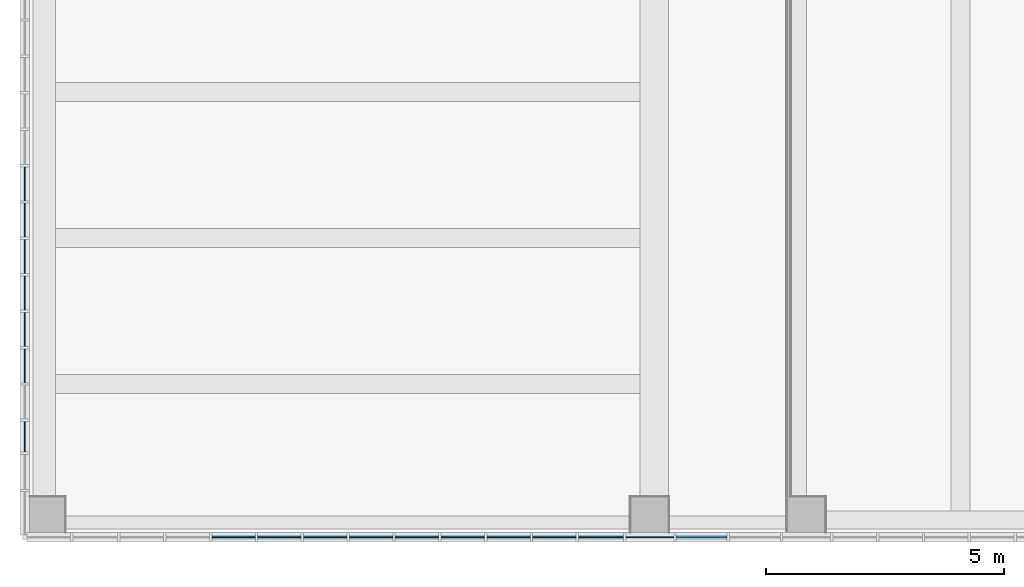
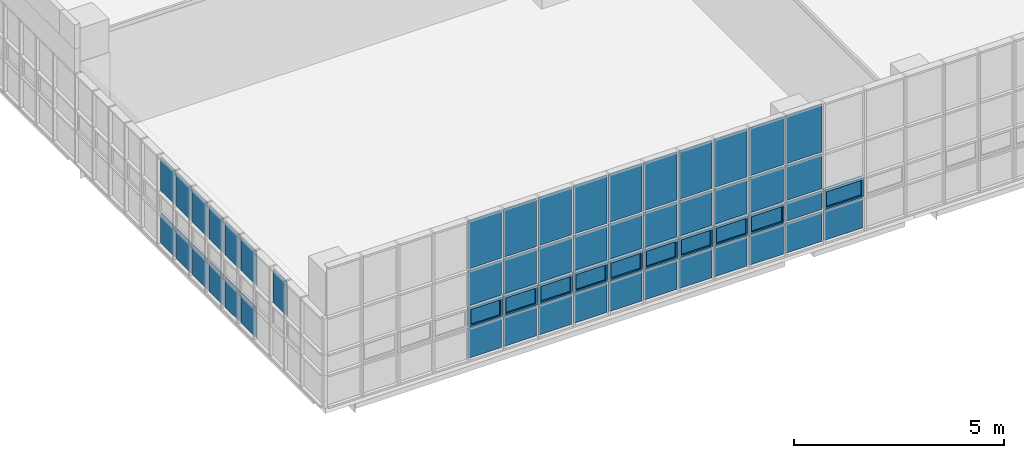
# One storey, part 29 of 76: 55 plates, 2 elements without a shape of their own.
"""IFC2X3 building model written with IfcOpenShell, lengths in millimetres."""

from ifc_helpers import new_model, entity, si_unit, converted_unit, derived_unit, direction, frame, origin, origin_2d_with_axis, place, context, subcontext, project, spatial, polyline, rectangle, outline, extrude, source, transform, mapped, material, material_list, type_object, type_shapes, element, aggregate, save


model = new_model("IFC2X3")

# Units and contexts
model_context = context("Model", 3, precision=0.01, world=origin(), true_north=direction((6.123031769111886e-17, 1.0)))
body_context = subcontext(model_context, "Body", "Model", "MODEL_VIEW")
ifc_project = project(units=[si_unit("LENGTHUNIT", "METRE", prefix="MILLI"), si_unit("AREAUNIT", "SQUARE_METRE"), si_unit("VOLUMEUNIT", "CUBIC_METRE"), converted_unit("PLANEANGLEUNIT", "DEGREE", entity("IfcRatioMeasure", 0.017453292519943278), si_unit("PLANEANGLEUNIT", "RADIAN"), dimensions=[0, 0, 0, 0, 0, 0, 0]), si_unit("MASSUNIT", "GRAM", prefix="KILO"), derived_unit("MASSDENSITYUNIT", [(si_unit("MASSUNIT", "GRAM", prefix="KILO"), 1), (si_unit("LENGTHUNIT", "METRE"), -3)]), derived_unit("MOMENTOFINERTIAUNIT", [(si_unit("LENGTHUNIT", "METRE"), 4)]), si_unit("TIMEUNIT", "SECOND"), si_unit("FREQUENCYUNIT", "HERTZ"), si_unit("THERMODYNAMICTEMPERATUREUNIT", "DEGREE_CELSIUS"), derived_unit("THERMALTRANSMITTANCEUNIT", [(si_unit("MASSUNIT", "GRAM", prefix="KILO"), 1), (si_unit("THERMODYNAMICTEMPERATUREUNIT", "KELVIN"), -1), (si_unit("TIMEUNIT", "SECOND"), -3)]), derived_unit("VOLUMETRICFLOWRATEUNIT", [(si_unit("LENGTHUNIT", "METRE"), 3), (si_unit("TIMEUNIT", "SECOND"), -1)]), derived_unit("MASSFLOWRATEUNIT", [(si_unit("MASSUNIT", "GRAM", prefix="KILO"), 1), (si_unit("TIMEUNIT", "SECOND"), -1)]), derived_unit("ROTATIONALFREQUENCYUNIT", [(si_unit("TIMEUNIT", "SECOND"), -1)]), si_unit("ELECTRICCURRENTUNIT", "AMPERE"), si_unit("ELECTRICVOLTAGEUNIT", "VOLT"), si_unit("POWERUNIT", "WATT"), si_unit("FORCEUNIT", "NEWTON", prefix="KILO"), si_unit("ILLUMINANCEUNIT", "LUX"), si_unit("LUMINOUSFLUXUNIT", "LUMEN"), si_unit("LUMINOUSINTENSITYUNIT", "CANDELA"), derived_unit("USERDEFINED", [(si_unit("MASSUNIT", "GRAM", prefix="KILO"), -1), (si_unit("LENGTHUNIT", "METRE"), -2), (si_unit("TIMEUNIT", "SECOND"), 3), (si_unit("LUMINOUSFLUXUNIT", "LUMEN"), 1)]), derived_unit("SOUNDPOWERUNIT", [(si_unit("MASSUNIT", "GRAM", prefix="KILO"), 1), (si_unit("LENGTHUNIT", "METRE"), 2), (si_unit("TIMEUNIT", "SECOND"), -3)]), derived_unit("SOUNDPRESSUREUNIT", [(si_unit("MASSUNIT", "GRAM", prefix="KILO"), 1), (si_unit("LENGTHUNIT", "METRE"), -1), (si_unit("TIMEUNIT", "SECOND"), -2)]), derived_unit("LINEARVELOCITYUNIT", [(si_unit("LENGTHUNIT", "METRE"), 1), (si_unit("TIMEUNIT", "SECOND"), -1)]), si_unit("PRESSUREUNIT", "PASCAL"), derived_unit("USERDEFINED", [(si_unit("LENGTHUNIT", "METRE"), -2), (si_unit("MASSUNIT", "GRAM", prefix="KILO"), 1), (si_unit("TIMEUNIT", "SECOND"), -2)]), derived_unit("LINEARFORCEUNIT", [(si_unit("MASSUNIT", "GRAM", prefix="KILO"), 1), (si_unit("LENGTHUNIT", "METRE"), 1), (si_unit("TIMEUNIT", "SECOND"), -2), (si_unit("LENGTHUNIT", "METRE"), -1)]), derived_unit("PLANARFORCEUNIT", [(si_unit("MASSUNIT", "GRAM", prefix="KILO"), 1), (si_unit("LENGTHUNIT", "METRE"), 1), (si_unit("TIMEUNIT", "SECOND"), -2), (si_unit("LENGTHUNIT", "METRE"), -2)])], contexts=[model_context])

# Site, building, storey
site_placement = place(None, frame((-14167.972527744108, -657.2125860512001, 0.0)))
site = spatial("IfcSite", under=ifc_project, at=site_placement, Name="Default", CompositionType="ELEMENT")
building_placement = place(site_placement, origin())
building = spatial("IfcBuilding", under=site, at=building_placement, Name="Sample Building", CompositionType="ELEMENT")
storey_placement = place(building_placement, frame((0.0, 0.0, 9300.0)))
storey = spatial("IfcBuildingStorey", under=building, at=storey_placement, Name="지상 3층", CompositionType="ELEMENT", Elevation=9300.000000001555)

# Curtain wall, plates
curtain_wall_type = type_object("IfcCurtainWallType", Name="커튼월:CW112-스테인리스 스틸 커튼월", PredefinedType="NOTDEFINED")
curtain_wall_1_placement = place(storey_placement, frame((0.0, 0.0, -9300.0)))
curtain_wall_1 = element("IfcCurtainWall", 1, at=curtain_wall_1_placement, inside=storey, type_object=curtain_wall_type, Name="커튼월:CW112-스테인리스 스틸 커튼월", ObjectType="커튼월:CW112-스테인리스 스틸 커튼월")
ifc_material_1 = material(Name="KBIMS-로이유리(코팅)")
plate_type_1 = type_object("IfcPlateType", Name="CW300-THK24.Low-e coating glass:CW300-THK24.Low-e coating glass", PredefinedType="CURTAIN_PANEL", material=ifc_material_1)
shared_shape_1 = source(origin(), body_context, "Body", "SweptSolid", [
    extrude(rectangle(XDim=715.9999999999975, YDim=24.000000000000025, at=origin_2d_with_axis()), frame((0.0, 0.0, 0.0), z_axis=(0.0, 0.0, 1.0), x_axis=(-1.0, 0.0, 0.0)), (0.0, 0.0, 1.0), 875.0000000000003),
])
type_shapes(plate_type_1, [shared_shape_1])
plate_1_placement = place(curtain_wall_1_placement, frame((14018.587904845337, 7948.817707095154, 9430.0), z_axis=(0.0, 0.0, 1.0), x_axis=(0.0, -1.0, 0.0)))
plate_1 = element("IfcPlate", 2, at=plate_1_placement, type_object=plate_type_1, material=ifc_material_1, Name="CW300-THK24.Low-e coating glass:CW300-THK24.Low-e coating glass", ObjectType="CW300-THK24.Low-e coating glass:CW300-THK24.Low-e coating glass", context=body_context, shape_type="MappedRepresentation", body=[
    mapped(shared_shape_1, transform((0.0, 0.0, 0.0), scale=1.0)),
])
plate_2_placement = place(curtain_wall_1_placement, frame((14018.587904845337, 7182.817707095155, 9430.0), z_axis=(0.0, 0.0, 1.0), x_axis=(0.0, -1.0, 0.0)))
plate_2 = element("IfcPlate", 3, at=plate_2_placement, type_object=plate_type_1, material=ifc_material_1, Name="CW300-THK24.Low-e coating glass:CW300-THK24.Low-e coating glass", ObjectType="CW300-THK24.Low-e coating glass:CW300-THK24.Low-e coating glass", context=body_context, shape_type="MappedRepresentation", body=[
    mapped(shared_shape_1, transform((0.0, 0.0, 0.0), scale=1.0)),
])
plate_3_placement = place(curtain_wall_1_placement, frame((14018.587904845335, 6416.817707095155, 9430.0), z_axis=(0.0, 0.0, 1.0), x_axis=(0.0, -1.0, 0.0)))
plate_3 = element("IfcPlate", 4, at=plate_3_placement, type_object=plate_type_1, material=ifc_material_1, Name="CW300-THK24.Low-e coating glass:CW300-THK24.Low-e coating glass", ObjectType="CW300-THK24.Low-e coating glass:CW300-THK24.Low-e coating glass", context=body_context, shape_type="MappedRepresentation", body=[
    mapped(shared_shape_1, transform((0.0, 0.0, 0.0), scale=1.0)),
])
plate_4_placement = place(curtain_wall_1_placement, frame((14018.587904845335, 5650.817707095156, 9430.0), z_axis=(0.0, 0.0, 1.0), x_axis=(0.0, -1.0, 0.0)))
plate_4 = element("IfcPlate", 5, at=plate_4_placement, type_object=plate_type_1, material=ifc_material_1, Name="CW300-THK24.Low-e coating glass:CW300-THK24.Low-e coating glass", ObjectType="CW300-THK24.Low-e coating glass:CW300-THK24.Low-e coating glass", context=body_context, shape_type="MappedRepresentation", body=[
    mapped(shared_shape_1, transform((0.0, 0.0, 0.0), scale=1.0)),
])
plate_5_placement = place(curtain_wall_1_placement, frame((14018.587904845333, 4884.817707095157, 9430.0), z_axis=(0.0, 0.0, 1.0), x_axis=(0.0, -1.0, 0.0)))
plate_5 = element("IfcPlate", 6, at=plate_5_placement, type_object=plate_type_1, material=ifc_material_1, Name="CW300-THK24.Low-e coating glass:CW300-THK24.Low-e coating glass", ObjectType="CW300-THK24.Low-e coating glass:CW300-THK24.Low-e coating glass", context=body_context, shape_type="MappedRepresentation", body=[
    mapped(shared_shape_1, transform((0.0, 0.0, 0.0), scale=1.0)),
])
plate_6_placement = place(curtain_wall_1_placement, frame((14018.587904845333, 4118.817707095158, 9430.0), z_axis=(0.0, 0.0, 1.0), x_axis=(0.0, -1.0, 0.0)))
plate_6 = element("IfcPlate", 7, at=plate_6_placement, type_object=plate_type_1, material=ifc_material_1, Name="CW300-THK24.Low-e coating glass:CW300-THK24.Low-e coating glass", ObjectType="CW300-THK24.Low-e coating glass:CW300-THK24.Low-e coating glass", context=body_context, shape_type="MappedRepresentation", body=[
    mapped(shared_shape_1, transform((0.0, 0.0, 0.0), scale=1.0)),
])
plate_type_2 = type_object("IfcPlateType", Name="CW300-THK24.Low-e coating glass:CW300-THK24.Low-e coating glass", PredefinedType="CURTAIN_PANEL", material=ifc_material_1)
shared_shape_2 = source(origin(), body_context, "Body", "SweptSolid", [
    extrude(rectangle(XDim=715.9999999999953, YDim=24.000000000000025, at=origin_2d_with_axis()), frame((0.0, 0.0, 0.0), z_axis=(0.0, 0.0, 1.0), x_axis=(-1.0, 0.0, 0.0)), (0.0, 0.0, 1.0), 995.0000000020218),
])
type_shapes(plate_type_2, [shared_shape_2])
plate_7_placement = place(curtain_wall_1_placement, frame((14018.587904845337, 7948.817707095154, 10955.0), z_axis=(0.0, 0.0, 1.0), x_axis=(0.0, -1.0, 0.0)))
plate_7 = element("IfcPlate", 8, at=plate_7_placement, type_object=plate_type_2, material=ifc_material_1, Name="CW300-THK24.Low-e coating glass:CW300-THK24.Low-e coating glass", ObjectType="CW300-THK24.Low-e coating glass:CW300-THK24.Low-e coating glass", context=body_context, shape_type="MappedRepresentation", body=[
    mapped(shared_shape_2, transform((0.0, 0.0, 0.0), scale=1.0)),
])
plate_8_placement = place(curtain_wall_1_placement, frame((14018.587904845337, 7182.817707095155, 10955.0), z_axis=(0.0, 0.0, 1.0), x_axis=(0.0, -1.0, 0.0)))
plate_8 = element("IfcPlate", 9, at=plate_8_placement, type_object=plate_type_2, material=ifc_material_1, Name="CW300-THK24.Low-e coating glass:CW300-THK24.Low-e coating glass", ObjectType="CW300-THK24.Low-e coating glass:CW300-THK24.Low-e coating glass", context=body_context, shape_type="MappedRepresentation", body=[
    mapped(shared_shape_2, transform((0.0, 0.0, 0.0), scale=1.0)),
])
plate_9_placement = place(curtain_wall_1_placement, frame((14018.587904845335, 6416.817707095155, 10955.0), z_axis=(0.0, 0.0, 1.0), x_axis=(0.0, -1.0, 0.0)))
plate_9 = element("IfcPlate", 10, at=plate_9_placement, type_object=plate_type_2, material=ifc_material_1, Name="CW300-THK24.Low-e coating glass:CW300-THK24.Low-e coating glass", ObjectType="CW300-THK24.Low-e coating glass:CW300-THK24.Low-e coating glass", context=body_context, shape_type="MappedRepresentation", body=[
    mapped(shared_shape_2, transform((0.0, 0.0, 0.0), scale=1.0)),
])
plate_10_placement = place(curtain_wall_1_placement, frame((14018.587904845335, 5650.817707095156, 10955.0), z_axis=(0.0, 0.0, 1.0), x_axis=(0.0, -1.0, 0.0)))
plate_10 = element("IfcPlate", 11, at=plate_10_placement, type_object=plate_type_2, material=ifc_material_1, Name="CW300-THK24.Low-e coating glass:CW300-THK24.Low-e coating glass", ObjectType="CW300-THK24.Low-e coating glass:CW300-THK24.Low-e coating glass", context=body_context, shape_type="MappedRepresentation", body=[
    mapped(shared_shape_2, transform((0.0, 0.0, 0.0), scale=1.0)),
])
plate_11_placement = place(curtain_wall_1_placement, frame((14018.587904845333, 4884.817707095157, 10955.0), z_axis=(0.0, 0.0, 1.0), x_axis=(0.0, -1.0, 0.0)))
plate_11 = element("IfcPlate", 12, at=plate_11_placement, type_object=plate_type_2, material=ifc_material_1, Name="CW300-THK24.Low-e coating glass:CW300-THK24.Low-e coating glass", ObjectType="CW300-THK24.Low-e coating glass:CW300-THK24.Low-e coating glass", context=body_context, shape_type="MappedRepresentation", body=[
    mapped(shared_shape_2, transform((0.0, 0.0, 0.0), scale=1.0)),
])
plate_12_placement = place(curtain_wall_1_placement, frame((14018.587904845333, 4118.817707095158, 10955.0), z_axis=(0.0, 0.0, 1.0), x_axis=(0.0, -1.0, 0.0)))
plate_12 = element("IfcPlate", 13, at=plate_12_placement, type_object=plate_type_2, material=ifc_material_1, Name="CW300-THK24.Low-e coating glass:CW300-THK24.Low-e coating glass", ObjectType="CW300-THK24.Low-e coating glass:CW300-THK24.Low-e coating glass", context=body_context, shape_type="MappedRepresentation", body=[
    mapped(shared_shape_2, transform((0.0, 0.0, 0.0), scale=1.0)),
])
plate_type_3 = type_object("IfcPlateType", Name="CW300-THK24.Low-e coating glass:CW300-THK24.Low-e coating glass", PredefinedType="CURTAIN_PANEL", material=ifc_material_1)
shared_shape_3 = source(origin(), body_context, "Body", "SweptSolid", [
    extrude(rectangle(XDim=642.0000000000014, YDim=24.000000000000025, at=origin_2d_with_axis()), frame((0.0, 0.0, 0.0), z_axis=(0.0, 0.0, 1.0), x_axis=(-1.0, 0.0, 0.0)), (0.0, 0.0, 1.0), 995.0000000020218),
])
type_shapes(plate_type_3, [shared_shape_3])
plate_13_placement = place(curtain_wall_1_placement, frame((14018.587904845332, 2623.81770709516, 10955.0), z_axis=(0.0, 0.0, 1.0), x_axis=(0.0, -1.0, 0.0)))
plate_13 = element("IfcPlate", 14, at=plate_13_placement, type_object=plate_type_3, material=ifc_material_1, Name="CW300-THK24.Low-e coating glass:CW300-THK24.Low-e coating glass", ObjectType="CW300-THK24.Low-e coating glass:CW300-THK24.Low-e coating glass", context=body_context, shape_type="MappedRepresentation", body=[
    mapped(shared_shape_3, transform((0.0, 0.0, 0.0), scale=1.0)),
])
aggregate(curtain_wall_1, [plate_1, plate_2, plate_3, plate_4, plate_5, plate_6, plate_7, plate_8, plate_9, plate_10, plate_11, plate_12, plate_13])

curtain_wall_2_placement = place(storey_placement, frame((0.0, 0.0, -9300.0)))
curtain_wall_2 = element("IfcCurtainWall", 15, at=curtain_wall_2_placement, inside=storey, type_object=curtain_wall_type, Name="커튼월:CW112-스테인리스 스틸 커튼월", ObjectType="커튼월:CW112-스테인리스 스틸 커튼월")
plate_type_4 = type_object("IfcPlateType", Name="CW300-THK24.Low-e coating glass:CW300-THK24.Low-e coating glass", PredefinedType="CURTAIN_PANEL", material=ifc_material_1)
shared_shape_4 = source(origin(), body_context, "Body", "SweptSolid", [
    extrude(rectangle(XDim=944.9999999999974, YDim=24.000000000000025, at=origin_2d_with_axis()), frame((0.0, 0.0, 0.0), z_axis=(0.0, 0.0, 1.0), x_axis=(-1.0, 0.0, 0.0)), (0.0, 0.0, 1.0), 875.0000000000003),
])
type_shapes(plate_type_4, [shared_shape_4])
plate_14_placement = place(curtain_wall_2_placement, frame((26147.65607007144, 507.2122951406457, 9430.0)))
plate_14 = element("IfcPlate", 16, at=plate_14_placement, type_object=plate_type_4, material=ifc_material_1, Name="CW300-THK24.Low-e coating glass:CW300-THK24.Low-e coating glass", ObjectType="CW300-THK24.Low-e coating glass:CW300-THK24.Low-e coating glass", context=body_context, shape_type="MappedRepresentation", body=[
    mapped(shared_shape_4, transform((0.0, 0.0, 0.0), scale=1.0)),
])
plate_type_5 = type_object("IfcPlateType", Name="CW300-THK24.Low-e coating glass:CW300-THK24.Low-e coating glass", PredefinedType="CURTAIN_PANEL", material=ifc_material_1)
shared_shape_5 = source(origin(), body_context, "Body", "SweptSolid", [
    extrude(rectangle(XDim=914.9999999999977, YDim=24.000000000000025, at=origin_2d_with_axis()), frame((0.0, 0.0, 0.0), z_axis=(0.0, 0.0, 1.0), x_axis=(-1.0, 0.0, 0.0)), (0.0, 0.0, 1.0), 875.0000000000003),
])
type_shapes(plate_type_5, [shared_shape_5])
plate_15_placement = place(curtain_wall_2_placement, frame((18412.656070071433, 507.2122951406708, 9430.0)))
plate_15 = element("IfcPlate", 17, at=plate_15_placement, type_object=plate_type_5, material=ifc_material_1, Name="CW300-THK24.Low-e coating glass:CW300-THK24.Low-e coating glass", ObjectType="CW300-THK24.Low-e coating glass:CW300-THK24.Low-e coating glass", context=body_context, shape_type="MappedRepresentation", body=[
    mapped(shared_shape_5, transform((0.0, 0.0, 0.0), scale=1.0)),
])
plate_16_placement = place(curtain_wall_2_placement, frame((19377.656070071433, 507.21229514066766, 9430.0)))
plate_16 = element("IfcPlate", 18, at=plate_16_placement, type_object=plate_type_5, material=ifc_material_1, Name="CW300-THK24.Low-e coating glass:CW300-THK24.Low-e coating glass", ObjectType="CW300-THK24.Low-e coating glass:CW300-THK24.Low-e coating glass", context=body_context, shape_type="MappedRepresentation", body=[
    mapped(shared_shape_5, transform((0.0, 0.0, 0.0), scale=1.0)),
])
plate_17_placement = place(curtain_wall_2_placement, frame((20342.65607007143, 507.2122951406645, 9430.0)))
plate_17 = element("IfcPlate", 19, at=plate_17_placement, type_object=plate_type_5, material=ifc_material_1, Name="CW300-THK24.Low-e coating glass:CW300-THK24.Low-e coating glass", ObjectType="CW300-THK24.Low-e coating glass:CW300-THK24.Low-e coating glass", context=body_context, shape_type="MappedRepresentation", body=[
    mapped(shared_shape_5, transform((0.0, 0.0, 0.0), scale=1.0)),
])
plate_18_placement = place(curtain_wall_2_placement, frame((21307.656070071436, 507.21229514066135, 9430.0)))
plate_18 = element("IfcPlate", 20, at=plate_18_placement, type_object=plate_type_5, material=ifc_material_1, Name="CW300-THK24.Low-e coating glass:CW300-THK24.Low-e coating glass", ObjectType="CW300-THK24.Low-e coating glass:CW300-THK24.Low-e coating glass", context=body_context, shape_type="MappedRepresentation", body=[
    mapped(shared_shape_5, transform((0.0, 0.0, 0.0), scale=1.0)),
])
plate_19_placement = place(curtain_wall_2_placement, frame((22272.656070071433, 507.2122951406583, 9430.0)))
plate_19 = element("IfcPlate", 21, at=plate_19_placement, type_object=plate_type_5, material=ifc_material_1, Name="CW300-THK24.Low-e coating glass:CW300-THK24.Low-e coating glass", ObjectType="CW300-THK24.Low-e coating glass:CW300-THK24.Low-e coating glass", context=body_context, shape_type="MappedRepresentation", body=[
    mapped(shared_shape_5, transform((0.0, 0.0, 0.0), scale=1.0)),
])
plate_20_placement = place(curtain_wall_2_placement, frame((23237.65607007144, 507.21229514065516, 9430.0)))
plate_20 = element("IfcPlate", 22, at=plate_20_placement, type_object=plate_type_5, material=ifc_material_1, Name="CW300-THK24.Low-e coating glass:CW300-THK24.Low-e coating glass", ObjectType="CW300-THK24.Low-e coating glass:CW300-THK24.Low-e coating glass", context=body_context, shape_type="MappedRepresentation", body=[
    mapped(shared_shape_5, transform((0.0, 0.0, 0.0), scale=1.0)),
])
plate_21_placement = place(curtain_wall_2_placement, frame((24202.656070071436, 507.21229514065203, 9430.0)))
plate_21 = element("IfcPlate", 23, at=plate_21_placement, type_object=plate_type_5, material=ifc_material_1, Name="CW300-THK24.Low-e coating glass:CW300-THK24.Low-e coating glass", ObjectType="CW300-THK24.Low-e coating glass:CW300-THK24.Low-e coating glass", context=body_context, shape_type="MappedRepresentation", body=[
    mapped(shared_shape_5, transform((0.0, 0.0, 0.0), scale=1.0)),
])
plate_22_placement = place(curtain_wall_2_placement, frame((25167.656070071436, 507.2122951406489, 9430.0)))
plate_22 = element("IfcPlate", 24, at=plate_22_placement, type_object=plate_type_5, material=ifc_material_1, Name="CW300-THK24.Low-e coating glass:CW300-THK24.Low-e coating glass", ObjectType="CW300-THK24.Low-e coating glass:CW300-THK24.Low-e coating glass", context=body_context, shape_type="MappedRepresentation", body=[
    mapped(shared_shape_5, transform((0.0, 0.0, 0.0), scale=1.0)),
])
plate_type_6 = type_object("IfcPlateType", Name="CW300-THK24.Low-e coating glass:CW300-THK24.Low-e coating glass", PredefinedType="CURTAIN_PANEL", material=ifc_material_1)
shared_shape_6 = source(origin(), body_context, "Body", "SweptSolid", [
    extrude(rectangle(XDim=1009.9999999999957, YDim=24.000000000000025, at=origin_2d_with_axis()), frame((0.0, 0.0, 0.0), z_axis=(0.0, 0.0, 1.0), x_axis=(-1.0, 0.0, 0.0)), (0.0, 0.0, 1.0), 875.0000000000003),
])
type_shapes(plate_type_6, [shared_shape_6])
plate_23_placement = place(curtain_wall_2_placement, frame((27175.156070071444, 507.2122951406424, 9430.0)))
plate_23 = element("IfcPlate", 25, at=plate_23_placement, type_object=plate_type_6, material=ifc_material_1, Name="CW300-THK24.Low-e coating glass:CW300-THK24.Low-e coating glass", ObjectType="CW300-THK24.Low-e coating glass:CW300-THK24.Low-e coating glass", context=body_context, shape_type="MappedRepresentation", body=[
    mapped(shared_shape_6, transform((0.0, 0.0, 0.0), scale=1.0)),
])
plate_type_7 = type_object("IfcPlateType", Name="CW300-THK24.Low-e coating glass:CW300-THK24.Low-e coating glass", PredefinedType="CURTAIN_PANEL", material=ifc_material_1)
shared_shape_7 = source(origin(), body_context, "Body", "SweptSolid", [
    extrude(rectangle(XDim=1070.000000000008, YDim=24.000000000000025, at=origin_2d_with_axis()), frame((0.0, 0.0, 0.0), z_axis=(0.0, 0.0, 1.0), x_axis=(-1.0, 0.0, 0.0)), (0.0, 0.0, 1.0), 875.0000000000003),
])
type_shapes(plate_type_7, [shared_shape_7])
plate_24_placement = place(curtain_wall_2_placement, frame((28265.15607007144, 507.2122951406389, 9430.0)))
plate_24 = element("IfcPlate", 26, at=plate_24_placement, type_object=plate_type_7, material=ifc_material_1, Name="CW300-THK24.Low-e coating glass:CW300-THK24.Low-e coating glass", ObjectType="CW300-THK24.Low-e coating glass:CW300-THK24.Low-e coating glass", context=body_context, shape_type="MappedRepresentation", body=[
    mapped(shared_shape_7, transform((0.0, 0.0, 0.0), scale=1.0)),
])
ifc_material_2 = material(Name="KBIMS-유리")
ifc_material_3 = material(Name="KBIMS-알루미늄")
ifc_material_list_1 = material_list([ifc_material_2, ifc_material_3])
ifc_material_list_2 = material_list([ifc_material_2, ifc_material_3])
plate_type_8 = type_object("IfcPlateType", Name="CW410-프로젝트 창:CW410-프로젝트 창 (하부개폐)", PredefinedType="CURTAIN_PANEL", material=ifc_material_list_2)
shared_shape_8 = source(origin(), body_context, "Body", "SweptSolid", [
    extrude(rectangle(XDim=845.0000000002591, YDim=23.999999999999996, at=origin_2d_with_axis()), frame((0.0, -0.04999999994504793, 50.0), z_axis=(0.0, 0.0, 1.0), x_axis=(-1.0, 0.0, 0.0)), (0.0, 0.0, 1.0), 450.0000000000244),
    extrude(outline(polyline([(-472.4999999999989, -275.0), (472.4999999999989, -275.0), (472.4999999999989, 275.0), (-472.4999999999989, 275.0), (-472.4999999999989, -275.0)]), holes=[polyline([(-422.50000000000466, -225.0), (-422.5000000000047, 225.0), (422.5000000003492, 225.0), (422.50000000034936, -225.0), (-422.50000000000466, -225.0)])]), frame((0.0, -50.04999999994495, 275.0), z_axis=(0.0, 1.0, 0.0), x_axis=(1.0, 0.0, 0.0)), (0.0, 0.0, 1.0), 99.99999999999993),
])
type_shapes(plate_type_8, [shared_shape_8])
plate_25_placement = place(curtain_wall_2_placement, frame((26147.65607007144, 507.2122951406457, 10355.0)))
plate_25 = element("IfcPlate", 27, at=plate_25_placement, type_object=plate_type_8, material=ifc_material_list_1, Name="CW410-프로젝트 창:CW410-프로젝트 창 (하부개폐)", ObjectType="CW410-프로젝트 창:CW410-프로젝트 창 (하부개폐)", context=body_context, shape_type="MappedRepresentation", body=[
    mapped(shared_shape_8, transform((0.0, 0.0, 0.0), scale=1.0)),
])
ifc_material_list_3 = material_list([ifc_material_2, ifc_material_3])
ifc_material_list_4 = material_list([ifc_material_2, ifc_material_3])
plate_type_9 = type_object("IfcPlateType", Name="CW410-프로젝트 창:CW410-프로젝트 창 (하부개폐)", PredefinedType="CURTAIN_PANEL", material=ifc_material_list_4)
shared_shape_9 = source(origin(), body_context, "Body", "SweptSolid", [
    extrude(rectangle(XDim=815.0000000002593, YDim=23.999999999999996, at=origin_2d_with_axis()), frame((0.0, -0.04999999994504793, 50.0), z_axis=(0.0, 0.0, 1.0), x_axis=(-1.0, 0.0, 0.0)), (0.0, 0.0, 1.0), 450.0000000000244),
    extrude(outline(polyline([(-457.4999999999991, -275.0), (457.4999999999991, -275.0), (457.4999999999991, 275.0), (-457.4999999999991, 275.0), (-457.4999999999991, -275.0)]), holes=[polyline([(-407.50000000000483, -225.0), (-407.5000000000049, 225.0), (407.50000000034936, 225.0), (407.50000000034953, -225.0), (-407.50000000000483, -225.0)])]), frame((0.0, -50.04999999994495, 275.0), z_axis=(0.0, 1.0, 0.0), x_axis=(1.0, 0.0, 0.0)), (0.0, 0.0, 1.0), 99.99999999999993),
])
type_shapes(plate_type_9, [shared_shape_9])
plate_26_placement = place(curtain_wall_2_placement, frame((18412.656070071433, 507.2122951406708, 10355.0)))
plate_26 = element("IfcPlate", 28, at=plate_26_placement, type_object=plate_type_9, material=ifc_material_list_3, Name="CW410-프로젝트 창:CW410-프로젝트 창 (하부개폐)", ObjectType="CW410-프로젝트 창:CW410-프로젝트 창 (하부개폐)", context=body_context, shape_type="MappedRepresentation", body=[
    mapped(shared_shape_9, transform((0.0, 0.0, 0.0), scale=1.0)),
])
ifc_material_list_5 = material_list([ifc_material_2, ifc_material_3])
plate_27_placement = place(curtain_wall_2_placement, frame((19377.656070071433, 507.21229514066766, 10355.0)))
plate_27 = element("IfcPlate", 29, at=plate_27_placement, type_object=plate_type_9, material=ifc_material_list_5, Name="CW410-프로젝트 창:CW410-프로젝트 창 (하부개폐)", ObjectType="CW410-프로젝트 창:CW410-프로젝트 창 (하부개폐)", context=body_context, shape_type="MappedRepresentation", body=[
    mapped(shared_shape_9, transform((0.0, 0.0, 0.0), scale=1.0)),
])
ifc_material_list_6 = material_list([ifc_material_2, ifc_material_3])
plate_28_placement = place(curtain_wall_2_placement, frame((20342.65607007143, 507.2122951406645, 10355.0)))
plate_28 = element("IfcPlate", 30, at=plate_28_placement, type_object=plate_type_9, material=ifc_material_list_6, Name="CW410-프로젝트 창:CW410-프로젝트 창 (하부개폐)", ObjectType="CW410-프로젝트 창:CW410-프로젝트 창 (하부개폐)", context=body_context, shape_type="MappedRepresentation", body=[
    mapped(shared_shape_9, transform((0.0, 0.0, 0.0), scale=1.0)),
])
ifc_material_list_7 = material_list([ifc_material_2, ifc_material_3])
plate_29_placement = place(curtain_wall_2_placement, frame((21307.656070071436, 507.21229514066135, 10355.0)))
plate_29 = element("IfcPlate", 31, at=plate_29_placement, type_object=plate_type_9, material=ifc_material_list_7, Name="CW410-프로젝트 창:CW410-프로젝트 창 (하부개폐)", ObjectType="CW410-프로젝트 창:CW410-프로젝트 창 (하부개폐)", context=body_context, shape_type="MappedRepresentation", body=[
    mapped(shared_shape_9, transform((0.0, 0.0, 0.0), scale=1.0)),
])
ifc_material_list_8 = material_list([ifc_material_2, ifc_material_3])
plate_30_placement = place(curtain_wall_2_placement, frame((22272.656070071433, 507.2122951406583, 10355.0)))
plate_30 = element("IfcPlate", 32, at=plate_30_placement, type_object=plate_type_9, material=ifc_material_list_8, Name="CW410-프로젝트 창:CW410-프로젝트 창 (하부개폐)", ObjectType="CW410-프로젝트 창:CW410-프로젝트 창 (하부개폐)", context=body_context, shape_type="MappedRepresentation", body=[
    mapped(shared_shape_9, transform((0.0, 0.0, 0.0), scale=1.0)),
])
ifc_material_list_9 = material_list([ifc_material_2, ifc_material_3])
plate_31_placement = place(curtain_wall_2_placement, frame((23237.65607007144, 507.21229514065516, 10355.0)))
plate_31 = element("IfcPlate", 33, at=plate_31_placement, type_object=plate_type_9, material=ifc_material_list_9, Name="CW410-프로젝트 창:CW410-프로젝트 창 (하부개폐)", ObjectType="CW410-프로젝트 창:CW410-프로젝트 창 (하부개폐)", context=body_context, shape_type="MappedRepresentation", body=[
    mapped(shared_shape_9, transform((0.0, 0.0, 0.0), scale=1.0)),
])
ifc_material_list_10 = material_list([ifc_material_2, ifc_material_3])
plate_32_placement = place(curtain_wall_2_placement, frame((24202.656070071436, 507.21229514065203, 10355.0)))
plate_32 = element("IfcPlate", 34, at=plate_32_placement, type_object=plate_type_9, material=ifc_material_list_10, Name="CW410-프로젝트 창:CW410-프로젝트 창 (하부개폐)", ObjectType="CW410-프로젝트 창:CW410-프로젝트 창 (하부개폐)", context=body_context, shape_type="MappedRepresentation", body=[
    mapped(shared_shape_9, transform((0.0, 0.0, 0.0), scale=1.0)),
])
ifc_material_list_11 = material_list([ifc_material_2, ifc_material_3])
plate_33_placement = place(curtain_wall_2_placement, frame((25167.656070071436, 507.2122951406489, 10355.0)))
plate_33 = element("IfcPlate", 35, at=plate_33_placement, type_object=plate_type_9, material=ifc_material_list_11, Name="CW410-프로젝트 창:CW410-프로젝트 창 (하부개폐)", ObjectType="CW410-프로젝트 창:CW410-프로젝트 창 (하부개폐)", context=body_context, shape_type="MappedRepresentation", body=[
    mapped(shared_shape_9, transform((0.0, 0.0, 0.0), scale=1.0)),
])
plate_type_10 = type_object("IfcPlateType", Name="CW300-THK24.Low-e coating glass:CW300-THK24.Low-e coating glass", PredefinedType="CURTAIN_PANEL", material=ifc_material_1)
shared_shape_10 = source(origin(), body_context, "Body", "SweptSolid", [
    extrude(rectangle(XDim=1010.0, YDim=24.000000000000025, at=origin_2d_with_axis()), frame((0.0, 0.0, 0.0), z_axis=(0.0, 0.0, 1.0), x_axis=(-1.0, 0.0, 0.0)), (0.0, 0.0, 1.0), 549.9999999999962),
])
type_shapes(plate_type_10, [shared_shape_10])
plate_34_placement = place(curtain_wall_2_placement, frame((27175.156070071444, 507.2122951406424, 10355.0)))
plate_34 = element("IfcPlate", 36, at=plate_34_placement, type_object=plate_type_10, material=ifc_material_1, Name="CW300-THK24.Low-e coating glass:CW300-THK24.Low-e coating glass", ObjectType="CW300-THK24.Low-e coating glass:CW300-THK24.Low-e coating glass", context=body_context, shape_type="MappedRepresentation", body=[
    mapped(shared_shape_10, transform((0.0, 0.0, 0.0), scale=1.0)),
])
ifc_material_list_12 = material_list([ifc_material_2, ifc_material_3])
ifc_material_list_13 = material_list([ifc_material_2, ifc_material_3])
plate_type_11 = type_object("IfcPlateType", Name="CW410-프로젝트 창:CW410-프로젝트 창 (하부개폐)", PredefinedType="CURTAIN_PANEL", material=ifc_material_list_13)
shared_shape_11 = source(origin(), body_context, "Body", "SweptSolid", [
    extrude(rectangle(XDim=970.0000000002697, YDim=23.999999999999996, at=origin_2d_with_axis()), frame((0.0, -0.04999999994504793, 50.0), z_axis=(0.0, 0.0, 1.0), x_axis=(-1.0, 0.0, 0.0)), (0.0, 0.0, 1.0), 450.0000000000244),
    extrude(outline(polyline([(-535.0, -275.0), (535.0, -275.0), (535.0, 275.0), (-535.0, 275.0), (-535.0, -275.0)]), holes=[polyline([(-485.0, -225.0), (-485.0, 225.0), (485.0, 225.0), (485.0, -225.0), (-485.0, -225.0)])]), frame((0.0, -50.04999999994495, 275.0), z_axis=(0.0, 1.0, 0.0), x_axis=(1.0, 0.0, 0.0)), (0.0, 0.0, 1.0), 99.99999999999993),
])
type_shapes(plate_type_11, [shared_shape_11])
plate_35_placement = place(curtain_wall_2_placement, frame((28265.156070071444, 507.2122951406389, 10355.0)))
plate_35 = element("IfcPlate", 37, at=plate_35_placement, type_object=plate_type_11, material=ifc_material_list_12, Name="CW410-프로젝트 창:CW410-프로젝트 창 (하부개폐)", ObjectType="CW410-프로젝트 창:CW410-프로젝트 창 (하부개폐)", context=body_context, shape_type="MappedRepresentation", body=[
    mapped(shared_shape_11, transform((0.0, 0.0, 0.0), scale=1.0)),
])
plate_type_12 = type_object("IfcPlateType", Name="CW300-THK24.Low-e coating glass:CW300-THK24.Low-e coating glass", PredefinedType="CURTAIN_PANEL", material=ifc_material_1)
shared_shape_12 = source(origin(), body_context, "Body", "SweptSolid", [
    extrude(rectangle(XDim=944.9999999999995, YDim=24.000000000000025, at=origin_2d_with_axis()), frame((0.0, 0.0, 0.0), z_axis=(0.0, 0.0, 1.0), x_axis=(-1.0, 0.0, 0.0)), (0.0, 0.0, 1.0), 1020.0000000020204),
])
type_shapes(plate_type_12, [shared_shape_12])
plate_36_placement = place(curtain_wall_2_placement, frame((26147.65607007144, 507.2122951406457, 10955.0)))
plate_36 = element("IfcPlate", 38, at=plate_36_placement, type_object=plate_type_12, material=ifc_material_1, Name="CW300-THK24.Low-e coating glass:CW300-THK24.Low-e coating glass", ObjectType="CW300-THK24.Low-e coating glass:CW300-THK24.Low-e coating glass", context=body_context, shape_type="MappedRepresentation", body=[
    mapped(shared_shape_12, transform((0.0, 0.0, 0.0), scale=1.0)),
])
plate_type_13 = type_object("IfcPlateType", Name="CW300-THK24.Low-e coating glass:CW300-THK24.Low-e coating glass", PredefinedType="CURTAIN_PANEL", material=ifc_material_1)
shared_shape_13 = source(origin(), body_context, "Body", "SweptSolid", [
    extrude(rectangle(XDim=914.9999999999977, YDim=24.000000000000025, at=origin_2d_with_axis()), frame((0.0, 0.0, 0.0), z_axis=(0.0, 0.0, 1.0), x_axis=(-1.0, 0.0, 0.0)), (0.0, 0.0, 1.0), 1020.0000000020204),
])
type_shapes(plate_type_13, [shared_shape_13])
plate_37_placement = place(curtain_wall_2_placement, frame((18412.656070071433, 507.2122951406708, 10955.0)))
plate_37 = element("IfcPlate", 39, at=plate_37_placement, type_object=plate_type_13, material=ifc_material_1, Name="CW300-THK24.Low-e coating glass:CW300-THK24.Low-e coating glass", ObjectType="CW300-THK24.Low-e coating glass:CW300-THK24.Low-e coating glass", context=body_context, shape_type="MappedRepresentation", body=[
    mapped(shared_shape_13, transform((0.0, 0.0, 0.0), scale=1.0)),
])
plate_38_placement = place(curtain_wall_2_placement, frame((19377.656070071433, 507.21229514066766, 10955.0)))
plate_38 = element("IfcPlate", 40, at=plate_38_placement, type_object=plate_type_13, material=ifc_material_1, Name="CW300-THK24.Low-e coating glass:CW300-THK24.Low-e coating glass", ObjectType="CW300-THK24.Low-e coating glass:CW300-THK24.Low-e coating glass", context=body_context, shape_type="MappedRepresentation", body=[
    mapped(shared_shape_13, transform((0.0, 0.0, 0.0), scale=1.0)),
])
plate_39_placement = place(curtain_wall_2_placement, frame((20342.65607007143, 507.2122951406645, 10955.0)))
plate_39 = element("IfcPlate", 41, at=plate_39_placement, type_object=plate_type_13, material=ifc_material_1, Name="CW300-THK24.Low-e coating glass:CW300-THK24.Low-e coating glass", ObjectType="CW300-THK24.Low-e coating glass:CW300-THK24.Low-e coating glass", context=body_context, shape_type="MappedRepresentation", body=[
    mapped(shared_shape_13, transform((0.0, 0.0, 0.0), scale=1.0)),
])
plate_40_placement = place(curtain_wall_2_placement, frame((21307.656070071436, 507.21229514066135, 10955.0)))
plate_40 = element("IfcPlate", 42, at=plate_40_placement, type_object=plate_type_13, material=ifc_material_1, Name="CW300-THK24.Low-e coating glass:CW300-THK24.Low-e coating glass", ObjectType="CW300-THK24.Low-e coating glass:CW300-THK24.Low-e coating glass", context=body_context, shape_type="MappedRepresentation", body=[
    mapped(shared_shape_13, transform((0.0, 0.0, 0.0), scale=1.0)),
])
plate_41_placement = place(curtain_wall_2_placement, frame((22272.656070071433, 507.2122951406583, 10955.0)))
plate_41 = element("IfcPlate", 43, at=plate_41_placement, type_object=plate_type_13, material=ifc_material_1, Name="CW300-THK24.Low-e coating glass:CW300-THK24.Low-e coating glass", ObjectType="CW300-THK24.Low-e coating glass:CW300-THK24.Low-e coating glass", context=body_context, shape_type="MappedRepresentation", body=[
    mapped(shared_shape_13, transform((0.0, 0.0, 0.0), scale=1.0)),
])
plate_42_placement = place(curtain_wall_2_placement, frame((23237.65607007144, 507.21229514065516, 10955.0)))
plate_42 = element("IfcPlate", 44, at=plate_42_placement, type_object=plate_type_13, material=ifc_material_1, Name="CW300-THK24.Low-e coating glass:CW300-THK24.Low-e coating glass", ObjectType="CW300-THK24.Low-e coating glass:CW300-THK24.Low-e coating glass", context=body_context, shape_type="MappedRepresentation", body=[
    mapped(shared_shape_13, transform((0.0, 0.0, 0.0), scale=1.0)),
])
plate_43_placement = place(curtain_wall_2_placement, frame((24202.656070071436, 507.21229514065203, 10955.0)))
plate_43 = element("IfcPlate", 45, at=plate_43_placement, type_object=plate_type_13, material=ifc_material_1, Name="CW300-THK24.Low-e coating glass:CW300-THK24.Low-e coating glass", ObjectType="CW300-THK24.Low-e coating glass:CW300-THK24.Low-e coating glass", context=body_context, shape_type="MappedRepresentation", body=[
    mapped(shared_shape_13, transform((0.0, 0.0, 0.0), scale=1.0)),
])
plate_44_placement = place(curtain_wall_2_placement, frame((25167.656070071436, 507.2122951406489, 10955.0)))
plate_44 = element("IfcPlate", 46, at=plate_44_placement, type_object=plate_type_13, material=ifc_material_1, Name="CW300-THK24.Low-e coating glass:CW300-THK24.Low-e coating glass", ObjectType="CW300-THK24.Low-e coating glass:CW300-THK24.Low-e coating glass", context=body_context, shape_type="MappedRepresentation", body=[
    mapped(shared_shape_13, transform((0.0, 0.0, 0.0), scale=1.0)),
])
plate_type_14 = type_object("IfcPlateType", Name="CW300-THK24.Low-e coating glass:CW300-THK24.Low-e coating glass", PredefinedType="CURTAIN_PANEL", material=ifc_material_1)
shared_shape_14 = source(origin(), body_context, "Body", "SweptSolid", [
    extrude(rectangle(XDim=1010.0, YDim=24.000000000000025, at=origin_2d_with_axis()), frame((0.0, 0.0, 0.0), z_axis=(0.0, 0.0, 1.0), x_axis=(-1.0, 0.0, 0.0)), (0.0, 0.0, 1.0), 1020.0000000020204),
])
type_shapes(plate_type_14, [shared_shape_14])
plate_45_placement = place(curtain_wall_2_placement, frame((27175.156070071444, 507.2122951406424, 10955.0)))
plate_45 = element("IfcPlate", 47, at=plate_45_placement, type_object=plate_type_14, material=ifc_material_1, Name="CW300-THK24.Low-e coating glass:CW300-THK24.Low-e coating glass", ObjectType="CW300-THK24.Low-e coating glass:CW300-THK24.Low-e coating glass", context=body_context, shape_type="MappedRepresentation", body=[
    mapped(shared_shape_14, transform((0.0, 0.0, 0.0), scale=1.0)),
])
plate_type_15 = type_object("IfcPlateType", Name="CW300-THK24.Low-e coating glass:CW300-THK24.Low-e coating glass", PredefinedType="CURTAIN_PANEL", material=ifc_material_1)
shared_shape_15 = source(origin(), body_context, "Body", "SweptSolid", [
    extrude(rectangle(XDim=945.0000000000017, YDim=24.000000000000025, at=origin_2d_with_axis()), frame((0.0, 0.0, 0.0), z_axis=(0.0, 0.0, 1.0), x_axis=(-1.0, 0.0, 0.0)), (0.0, 0.0, 1.0), 1404.9999999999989),
])
type_shapes(plate_type_15, [shared_shape_15])
plate_46_placement = place(curtain_wall_2_placement, frame((26147.65607007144, 507.2122951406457, 12025.0)))
plate_46 = element("IfcPlate", 48, at=plate_46_placement, type_object=plate_type_15, material=ifc_material_1, Name="CW300-THK24.Low-e coating glass:CW300-THK24.Low-e coating glass", ObjectType="CW300-THK24.Low-e coating glass:CW300-THK24.Low-e coating glass", context=body_context, shape_type="MappedRepresentation", body=[
    mapped(shared_shape_15, transform((0.0, 0.0, 0.0), scale=1.0)),
])
plate_type_16 = type_object("IfcPlateType", Name="CW300-THK24.Low-e coating glass:CW300-THK24.Low-e coating glass", PredefinedType="CURTAIN_PANEL", material=ifc_material_1)
shared_shape_16 = source(origin(), body_context, "Body", "SweptSolid", [
    extrude(rectangle(XDim=914.9999999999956, YDim=24.000000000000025, at=origin_2d_with_axis()), frame((0.0, 0.0, 0.0), z_axis=(0.0, 0.0, 1.0), x_axis=(-1.0, 0.0, 0.0)), (0.0, 0.0, 1.0), 1404.9999999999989),
])
type_shapes(plate_type_16, [shared_shape_16])
plate_47_placement = place(curtain_wall_2_placement, frame((18412.656070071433, 507.2122951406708, 12025.0)))
plate_47 = element("IfcPlate", 49, at=plate_47_placement, type_object=plate_type_16, material=ifc_material_1, Name="CW300-THK24.Low-e coating glass:CW300-THK24.Low-e coating glass", ObjectType="CW300-THK24.Low-e coating glass:CW300-THK24.Low-e coating glass", context=body_context, shape_type="MappedRepresentation", body=[
    mapped(shared_shape_16, transform((0.0, 0.0, 0.0), scale=1.0)),
])
plate_48_placement = place(curtain_wall_2_placement, frame((19377.656070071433, 507.21229514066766, 12025.0)))
plate_48 = element("IfcPlate", 50, at=plate_48_placement, type_object=plate_type_16, material=ifc_material_1, Name="CW300-THK24.Low-e coating glass:CW300-THK24.Low-e coating glass", ObjectType="CW300-THK24.Low-e coating glass:CW300-THK24.Low-e coating glass", context=body_context, shape_type="MappedRepresentation", body=[
    mapped(shared_shape_16, transform((0.0, 0.0, 0.0), scale=1.0)),
])
plate_49_placement = place(curtain_wall_2_placement, frame((20342.65607007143, 507.2122951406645, 12025.0)))
plate_49 = element("IfcPlate", 51, at=plate_49_placement, type_object=plate_type_16, material=ifc_material_1, Name="CW300-THK24.Low-e coating glass:CW300-THK24.Low-e coating glass", ObjectType="CW300-THK24.Low-e coating glass:CW300-THK24.Low-e coating glass", context=body_context, shape_type="MappedRepresentation", body=[
    mapped(shared_shape_16, transform((0.0, 0.0, 0.0), scale=1.0)),
])
plate_50_placement = place(curtain_wall_2_placement, frame((21307.656070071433, 507.21229514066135, 12025.0)))
plate_50 = element("IfcPlate", 52, at=plate_50_placement, type_object=plate_type_16, material=ifc_material_1, Name="CW300-THK24.Low-e coating glass:CW300-THK24.Low-e coating glass", ObjectType="CW300-THK24.Low-e coating glass:CW300-THK24.Low-e coating glass", context=body_context, shape_type="MappedRepresentation", body=[
    mapped(shared_shape_16, transform((0.0, 0.0, 0.0), scale=1.0)),
])
plate_51_placement = place(curtain_wall_2_placement, frame((22272.656070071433, 507.2122951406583, 12025.0)))
plate_51 = element("IfcPlate", 53, at=plate_51_placement, type_object=plate_type_16, material=ifc_material_1, Name="CW300-THK24.Low-e coating glass:CW300-THK24.Low-e coating glass", ObjectType="CW300-THK24.Low-e coating glass:CW300-THK24.Low-e coating glass", context=body_context, shape_type="MappedRepresentation", body=[
    mapped(shared_shape_16, transform((0.0, 0.0, 0.0), scale=1.0)),
])
plate_52_placement = place(curtain_wall_2_placement, frame((23237.65607007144, 507.21229514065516, 12025.0)))
plate_52 = element("IfcPlate", 54, at=plate_52_placement, type_object=plate_type_16, material=ifc_material_1, Name="CW300-THK24.Low-e coating glass:CW300-THK24.Low-e coating glass", ObjectType="CW300-THK24.Low-e coating glass:CW300-THK24.Low-e coating glass", context=body_context, shape_type="MappedRepresentation", body=[
    mapped(shared_shape_16, transform((0.0, 0.0, 0.0), scale=1.0)),
])
plate_53_placement = place(curtain_wall_2_placement, frame((24202.656070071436, 507.21229514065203, 12025.0)))
plate_53 = element("IfcPlate", 55, at=plate_53_placement, type_object=plate_type_16, material=ifc_material_1, Name="CW300-THK24.Low-e coating glass:CW300-THK24.Low-e coating glass", ObjectType="CW300-THK24.Low-e coating glass:CW300-THK24.Low-e coating glass", context=body_context, shape_type="MappedRepresentation", body=[
    mapped(shared_shape_16, transform((0.0, 0.0, 0.0), scale=1.0)),
])
plate_54_placement = place(curtain_wall_2_placement, frame((25167.656070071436, 507.2122951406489, 12025.0)))
plate_54 = element("IfcPlate", 56, at=plate_54_placement, type_object=plate_type_16, material=ifc_material_1, Name="CW300-THK24.Low-e coating glass:CW300-THK24.Low-e coating glass", ObjectType="CW300-THK24.Low-e coating glass:CW300-THK24.Low-e coating glass", context=body_context, shape_type="MappedRepresentation", body=[
    mapped(shared_shape_16, transform((0.0, 0.0, 0.0), scale=1.0)),
])
plate_type_17 = type_object("IfcPlateType", Name="CW300-THK24.Low-e coating glass:CW300-THK24.Low-e coating glass", PredefinedType="CURTAIN_PANEL", material=ifc_material_1)
shared_shape_17 = source(origin(), body_context, "Body", "SweptSolid", [
    extrude(rectangle(XDim=1010.0, YDim=24.000000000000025, at=origin_2d_with_axis()), frame((0.0, 0.0, 0.0), z_axis=(0.0, 0.0, 1.0), x_axis=(-1.0, 0.0, 0.0)), (0.0, 0.0, 1.0), 1404.9999999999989),
])
type_shapes(plate_type_17, [shared_shape_17])
plate_55_placement = place(curtain_wall_2_placement, frame((27175.156070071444, 507.2122951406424, 12025.0)))
plate_55 = element("IfcPlate", 57, at=plate_55_placement, type_object=plate_type_17, material=ifc_material_1, Name="CW300-THK24.Low-e coating glass:CW300-THK24.Low-e coating glass", ObjectType="CW300-THK24.Low-e coating glass:CW300-THK24.Low-e coating glass", context=body_context, shape_type="MappedRepresentation", body=[
    mapped(shared_shape_17, transform((0.0, 0.0, 0.0), scale=1.0)),
])
aggregate(curtain_wall_2, [plate_15, plate_16, plate_17, plate_18, plate_19, plate_20, plate_21, plate_22, plate_14, plate_23, plate_24, plate_26, plate_27, plate_28, plate_29, plate_30, plate_31, plate_32, plate_33, plate_25, plate_34, plate_35, plate_37, plate_38, plate_39, plate_40, plate_41, plate_42, plate_43, plate_44, plate_36, plate_45, plate_47, plate_48, plate_49, plate_50, plate_51, plate_52, plate_53, plate_54, plate_46, plate_55])

save(model, "model.ifc")
